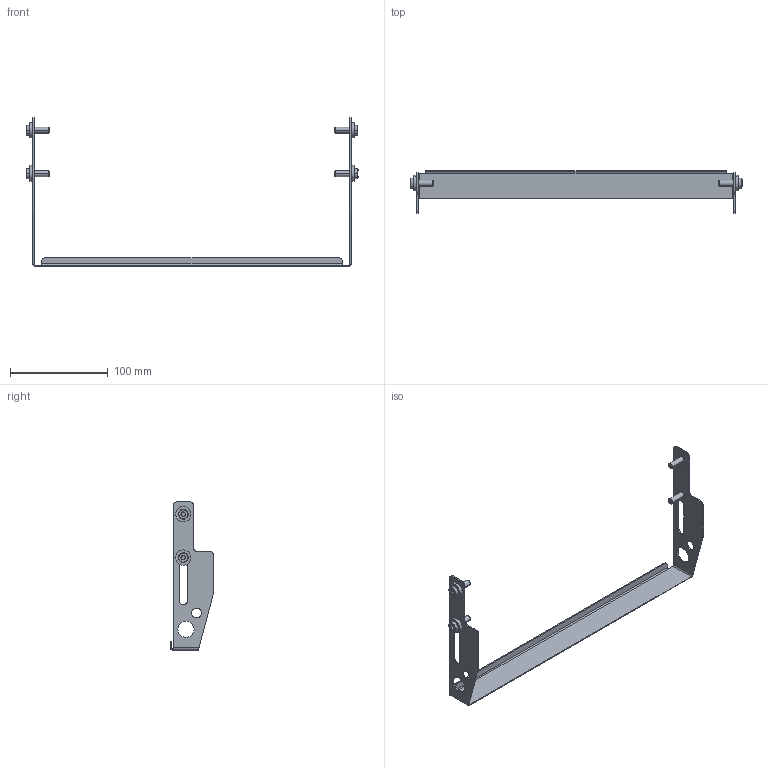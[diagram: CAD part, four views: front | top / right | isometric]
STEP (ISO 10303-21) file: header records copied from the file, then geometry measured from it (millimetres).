
FILE_DESCRIPTION (( 'STEP AP203' ), '1' );
FILE_NAME ('207218-12.STEP', '2016-06-07T14:00:59', ( 'Dorner' ), ( 'Dorner Mfg Corp' ), 'SwSTEP 2.0', 'SolidWorks 2015', '' );
FILE_SCHEMA (( 'CONFIG_CONTROL_DESIGN' ));
Length unit declared in the file: inch
Products named in the file (4): 207125_207125-12; 9506XXM_950620M; 605279P; 207218-12
Assembly tree (9 placements, depth 2):
  207218-12
    207125_207125-12
    9506XXM_950620M  x4
    605279P  x4
Bounding box: 339.5 x 43.71 x 151.79 mm (x, y, z)
Volume: 28745.8 mm3; surface area: 45681 mm2
Topology: 9 solids, 9 shells, 212 faces, 478 edges, 292 vertices
Faces by surface type: plane 90, cylinder 78, cone 44
Entity records: 4281 total; most frequent: CARTESIAN_POINT 697, DIRECTION 667, ORIENTED_EDGE 602, EDGE_CURVE 301, AXIS2_PLACEMENT_3D 246, VERTEX_POINT 190, VECTOR 175, LINE 175
